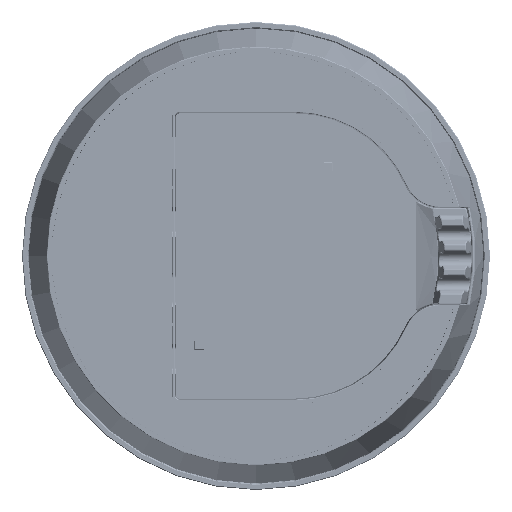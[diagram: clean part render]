
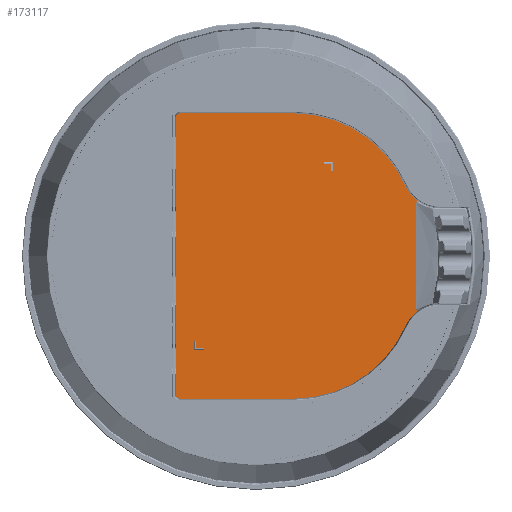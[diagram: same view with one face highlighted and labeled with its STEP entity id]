
A CAD part, front view. The second image highlights one B-rep face of the part: STEP entity #173117.
In plain terms, the highlighted planar face has unit normal (0, -1, 0).
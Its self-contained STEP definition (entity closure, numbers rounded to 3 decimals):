
#160613=CARTESIAN_POINT('',(43.,-27.5,-14.087));
#160653=DIRECTION('',(0.,0.,1.));
#160654=VECTOR('',#160653,28.174);
#160655=CARTESIAN_POINT('',(43.,-27.5,-14.087));
#160656=LINE('',#160655,#160654);
#160660=CARTESIAN_POINT('',(48.406,-27.5,-22.5));
#160661=DIRECTION('',(0.,1.,0.));
#160662=DIRECTION('',(-0.914,0.,0.405));
#160663=AXIS2_PLACEMENT_3D('',#160660,#160661,#160662);
#160668=CARTESIAN_POINT('',(10.,-27.5,-5.5));
#160669=DIRECTION('',(0.,-1.,0.));
#160670=DIRECTION('',(0.,0.,-1.));
#160671=AXIS2_PLACEMENT_3D('',#160668,#160669,#160670);
#160676=DIRECTION('',(1.,0.,0.));
#160677=VECTOR('',#160676,30.);
#160678=CARTESIAN_POINT('',(-20.,-27.5,-37.5));
#160679=LINE('',#160678,#160677);
#160683=CARTESIAN_POINT('',(-20.,-27.5,-36.5));
#160684=DIRECTION('',(0.,-1.,0.));
#160685=DIRECTION('',(-1.,0.,0.));
#160686=AXIS2_PLACEMENT_3D('',#160683,#160684,#160685);
#160691=DIRECTION('',(0.,0.,-1.));
#160692=VECTOR('',#160691,73.);
#160693=CARTESIAN_POINT('',(-21.,-27.5,36.5));
#160694=LINE('',#160693,#160692);
#160698=CARTESIAN_POINT('',(-20.,-27.5,36.5));
#160699=DIRECTION('',(0.,-1.,0.));
#160700=DIRECTION('',(0.,0.,1.));
#160701=AXIS2_PLACEMENT_3D('',#160698,#160699,#160700);
#160706=DIRECTION('',(-1.,0.,0.));
#160707=VECTOR('',#160706,30.);
#160708=CARTESIAN_POINT('',(10.,-27.5,37.5));
#160709=LINE('',#160708,#160707);
#160713=CARTESIAN_POINT('',(10.,-27.5,5.5));
#160714=DIRECTION('',(0.,-1.,0.));
#160715=DIRECTION('',(0.914,0.,0.405));
#160716=AXIS2_PLACEMENT_3D('',#160713,#160714,#160715);
#160721=CARTESIAN_POINT('',(48.406,-27.5,22.5));
#160722=DIRECTION('',(0.,1.,0.));
#160723=DIRECTION('',(-0.541,0.,-0.841));
#160724=AXIS2_PLACEMENT_3D('',#160721,#160722,#160723);
#160729=DIRECTION('',(1.,0.,0.));
#160730=VECTOR('',#160729,2.5);
#160731=CARTESIAN_POINT('',(-16.25,-27.5,-24.75));
#160732=LINE('',#160731,#160730);
#160736=DIRECTION('',(0.,0.,1.));
#160737=VECTOR('',#160736,0.5);
#160738=CARTESIAN_POINT('',(-13.75,-27.5,-24.75));
#160739=LINE('',#160738,#160737);
#160743=DIRECTION('',(-1.,0.,0.));
#160744=VECTOR('',#160743,2.);
#160745=CARTESIAN_POINT('',(-13.75,-27.5,-24.25));
#160746=LINE('',#160745,#160744);
#160750=DIRECTION('',(0.,0.,1.));
#160751=VECTOR('',#160750,2.);
#160752=CARTESIAN_POINT('',(-15.75,-27.5,-24.25));
#160753=LINE('',#160752,#160751);
#160757=DIRECTION('',(-1.,0.,0.));
#160758=VECTOR('',#160757,0.5);
#160759=CARTESIAN_POINT('',(-15.75,-27.5,-22.25));
#160760=LINE('',#160759,#160758);
#160764=DIRECTION('',(0.,0.,-1.));
#160765=VECTOR('',#160764,2.5);
#160766=CARTESIAN_POINT('',(-16.25,-27.5,-22.25));
#160767=LINE('',#160766,#160765);
#160771=DIRECTION('',(-1.,0.,0.));
#160772=VECTOR('',#160771,2.5);
#160773=CARTESIAN_POINT('',(20.25,-27.5,24.75));
#160774=LINE('',#160773,#160772);
#160778=DIRECTION('',(0.,0.,-1.));
#160779=VECTOR('',#160778,0.5);
#160780=CARTESIAN_POINT('',(17.75,-27.5,24.75));
#160781=LINE('',#160780,#160779);
#160785=DIRECTION('',(1.,0.,0.));
#160786=VECTOR('',#160785,2.);
#160787=CARTESIAN_POINT('',(17.75,-27.5,24.25));
#160788=LINE('',#160787,#160786);
#160792=DIRECTION('',(0.,0.,-1.));
#160793=VECTOR('',#160792,2.);
#160794=CARTESIAN_POINT('',(19.75,-27.5,24.25));
#160795=LINE('',#160794,#160793);
#160799=DIRECTION('',(1.,0.,0.));
#160800=VECTOR('',#160799,0.5);
#160801=CARTESIAN_POINT('',(19.75,-27.5,22.25));
#160802=LINE('',#160801,#160800);
#160806=DIRECTION('',(0.,0.,1.));
#160807=VECTOR('',#160806,2.5);
#160808=CARTESIAN_POINT('',(20.25,-27.5,22.25));
#160809=LINE('',#160808,#160807);
#168831=CARTESIAN_POINT('',(10.,-27.5,-37.5));
#168832=CARTESIAN_POINT('',(39.262,-27.5,-18.452));
#168833=VERTEX_POINT('',#168831);
#168834=VERTEX_POINT('',#168832);
#168835=CARTESIAN_POINT('',(39.262,-27.5,18.452));
#168836=CARTESIAN_POINT('',(10.,-27.5,37.5));
#168837=VERTEX_POINT('',#168835);
#168838=VERTEX_POINT('',#168836);
#168886=CARTESIAN_POINT('',(-21.,-27.5,-36.5));
#168887=CARTESIAN_POINT('',(-20.,-27.5,-37.5));
#168888=VERTEX_POINT('',#168886);
#168889=VERTEX_POINT('',#168887);
#168890=CARTESIAN_POINT('',(-20.,-27.5,37.5));
#168891=CARTESIAN_POINT('',(-21.,-27.5,36.5));
#168892=VERTEX_POINT('',#168890);
#168893=VERTEX_POINT('',#168891);
#169979=VERTEX_POINT('',#160613);
#169981=CARTESIAN_POINT('',(43.,-27.5,14.087));
#169982=VERTEX_POINT('',#169981);
#170158=CARTESIAN_POINT('',(-16.25,-27.5,-24.75));
#170160=VERTEX_POINT('',#170158);
#170162=CARTESIAN_POINT('',(20.25,-27.5,24.75));
#170164=VERTEX_POINT('',#170162);
#170178=CARTESIAN_POINT('',(-15.75,-27.5,-24.25));
#170179=CARTESIAN_POINT('',(-15.75,-27.5,-22.25));
#170180=VERTEX_POINT('',#170178);
#170181=VERTEX_POINT('',#170179);
#170182=CARTESIAN_POINT('',(-13.75,-27.5,-24.25));
#170183=VERTEX_POINT('',#170182);
#170184=CARTESIAN_POINT('',(19.75,-27.5,24.25));
#170185=CARTESIAN_POINT('',(19.75,-27.5,22.25));
#170186=VERTEX_POINT('',#170184);
#170187=VERTEX_POINT('',#170185);
#170188=CARTESIAN_POINT('',(17.75,-27.5,24.25));
#170189=VERTEX_POINT('',#170188);
#170191=CARTESIAN_POINT('',(-13.75,-27.5,-24.75));
#170193=VERTEX_POINT('',#170191);
#170194=CARTESIAN_POINT('',(-16.25,-27.5,-22.25));
#170196=VERTEX_POINT('',#170194);
#170199=CARTESIAN_POINT('',(17.75,-27.5,24.75));
#170201=VERTEX_POINT('',#170199);
#170202=CARTESIAN_POINT('',(20.25,-27.5,22.25));
#170204=VERTEX_POINT('',#170202);
#173064=CARTESIAN_POINT('',(30.25,-27.5,0.));
#173065=DIRECTION('',(0.,1.,0.));
#173066=DIRECTION('',(-1.,0.,0.));
#173067=AXIS2_PLACEMENT_3D('',#173064,#173065,#173066);
#173068=PLANE('',#173067);
#173069=ORIENTED_EDGE('',*,*,#173054,.F.);
#173070=ORIENTED_EDGE('',*,*,#173007,.F.);
#173072=ORIENTED_EDGE('',*,*,#173071,.F.);
#173074=ORIENTED_EDGE('',*,*,#173073,.F.);
#173076=ORIENTED_EDGE('',*,*,#173075,.F.);
#173078=ORIENTED_EDGE('',*,*,#173077,.F.);
#173080=ORIENTED_EDGE('',*,*,#173079,.F.);
#173082=ORIENTED_EDGE('',*,*,#173081,.F.);
#173084=ORIENTED_EDGE('',*,*,#173083,.F.);
#173086=ORIENTED_EDGE('',*,*,#173085,.F.);
#173087=EDGE_LOOP('',(#173069,#173070,#173072,#173074,#173076,#173078,#173080,
#173082,#173084,#173086));
#173088=FACE_OUTER_BOUND('',#173087,.F.);
#173090=ORIENTED_EDGE('',*,*,#173089,.T.);
#173092=ORIENTED_EDGE('',*,*,#173091,.T.);
#173094=ORIENTED_EDGE('',*,*,#173093,.T.);
#173096=ORIENTED_EDGE('',*,*,#173095,.T.);
#173098=ORIENTED_EDGE('',*,*,#173097,.T.);
#173100=ORIENTED_EDGE('',*,*,#173099,.T.);
#173101=EDGE_LOOP('',(#173090,#173092,#173094,#173096,#173098,#173100));
#173102=FACE_BOUND('',#173101,.F.);
#173104=ORIENTED_EDGE('',*,*,#173103,.T.);
#173106=ORIENTED_EDGE('',*,*,#173105,.T.);
#173108=ORIENTED_EDGE('',*,*,#173107,.T.);
#173110=ORIENTED_EDGE('',*,*,#173109,.T.);
#173112=ORIENTED_EDGE('',*,*,#173111,.T.);
#173114=ORIENTED_EDGE('',*,*,#173113,.T.);
#173115=EDGE_LOOP('',(#173104,#173106,#173108,#173110,#173112,#173114));
#173116=FACE_BOUND('',#173115,.F.);
#173117=ADVANCED_FACE('',(#173088,#173102,#173116),#173068,.F.);
#160664=CIRCLE('',#160663,10.);
#160672=CIRCLE('',#160671,32.);
#160687=CIRCLE('',#160686,1.);
#160702=CIRCLE('',#160701,1.);
#160717=CIRCLE('',#160716,32.);
#160725=CIRCLE('',#160724,10.);
#173007=EDGE_CURVE('',#168834,#169979,#160664,.T.);
#173054=EDGE_CURVE('',#169979,#169982,#160656,.T.);
#173071=EDGE_CURVE('',#168833,#168834,#160672,.T.);
#173073=EDGE_CURVE('',#168889,#168833,#160679,.T.);
#173075=EDGE_CURVE('',#168888,#168889,#160687,.T.);
#173077=EDGE_CURVE('',#168893,#168888,#160694,.T.);
#173079=EDGE_CURVE('',#168892,#168893,#160702,.T.);
#173081=EDGE_CURVE('',#168838,#168892,#160709,.T.);
#173083=EDGE_CURVE('',#168837,#168838,#160717,.T.);
#173085=EDGE_CURVE('',#169982,#168837,#160725,.T.);
#173089=EDGE_CURVE('',#170160,#170193,#160732,.T.);
#173091=EDGE_CURVE('',#170193,#170183,#160739,.T.);
#173093=EDGE_CURVE('',#170183,#170180,#160746,.T.);
#173095=EDGE_CURVE('',#170180,#170181,#160753,.T.);
#173097=EDGE_CURVE('',#170181,#170196,#160760,.T.);
#173099=EDGE_CURVE('',#170196,#170160,#160767,.T.);
#173103=EDGE_CURVE('',#170164,#170201,#160774,.T.);
#173105=EDGE_CURVE('',#170201,#170189,#160781,.T.);
#173107=EDGE_CURVE('',#170189,#170186,#160788,.T.);
#173109=EDGE_CURVE('',#170186,#170187,#160795,.T.);
#173111=EDGE_CURVE('',#170187,#170204,#160802,.T.);
#173113=EDGE_CURVE('',#170204,#170164,#160809,.T.);
